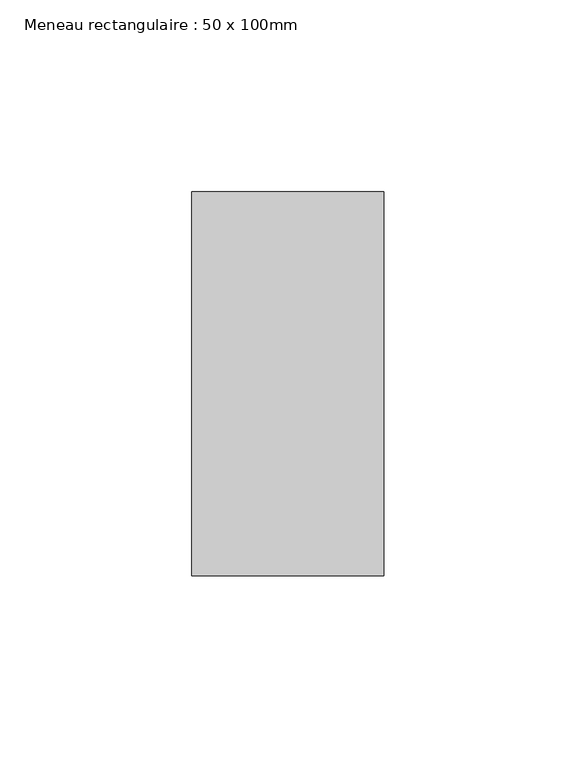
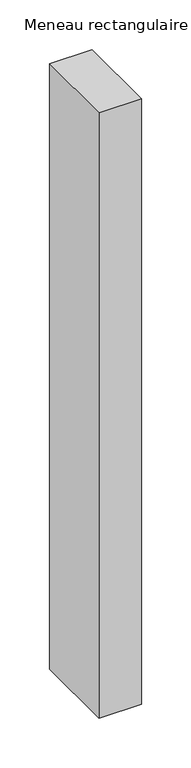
"""IFC4 building model written with IfcOpenShell, lengths in millimetres: member geometry, Meneau rectangulaire : 50 x 100mm."""

from ifc_helpers import new_model, si_unit, frame, origin, place, context, project, spatial, polyline, outline, extrude, source, transform, mapped, element, save


def meneau_rectangulaire_50_x_100mm_43c9efb0(model_context):
    return source(origin(), model_context, "Body", "SweptSolid", [
        extrude(outline(polyline([(0.0, 50.0), (0.0, -50.0), (-50.0, -50.0), (-50.0, 50.0), (0.0, 50.0)])), frame((0.0, 0.0, -746.6301713), z_axis=(0.0, 0.0, 1.0), x_axis=(1.0, 0.0, 0.0)), (0.0, 0.0, 1.0), 746.6301713),
    ])


if __name__ == "__main__":
    model = new_model("IFC4")
    model_context = context("Model", 3, world=origin())
    ifc_project = project(units=[si_unit("LENGTHUNIT", "METRE", prefix="MILLI")], contexts=[model_context])
    site = spatial("IfcSite", under=ifc_project)
    building = spatial("IfcBuilding", under=site)
    placement = place(None, origin())
    meneau_rectangulaire_50_x_100mm_shape = meneau_rectangulaire_50_x_100mm_43c9efb0(model_context)
    element("IfcMember", 1, ObjectType="Meneau rectangulaire : 50 x 100mm", at=placement, inside=building, context=model_context, shape_type="MappedRepresentation", body=[
        mapped(meneau_rectangulaire_50_x_100mm_shape, transform((0.0, 0.0, 0.0), x_axis=(1.0, 0.0, 0.0), y_axis=(0.0, 1.0, 0.0), z_axis=(0.0, 0.0, 1.0))),
    ])
    save(model, "model.ifc")
